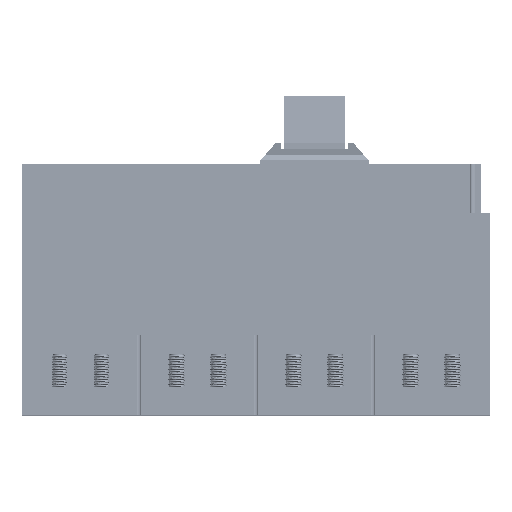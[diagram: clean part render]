
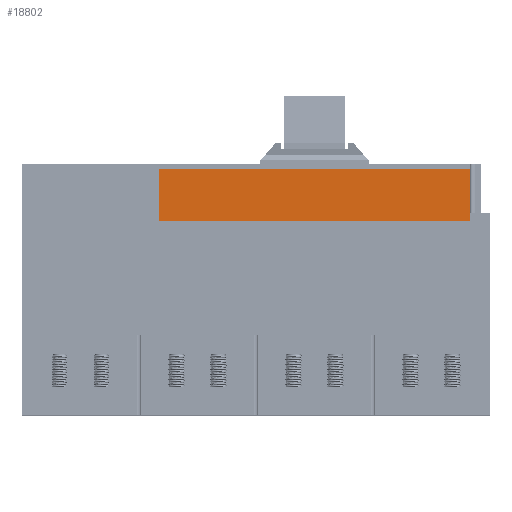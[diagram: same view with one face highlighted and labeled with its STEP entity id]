
A CAD part, top view. The second image highlights one B-rep face of the part: STEP entity #18802.
In plain terms, the highlighted planar face has unit normal (0, 0, 1).
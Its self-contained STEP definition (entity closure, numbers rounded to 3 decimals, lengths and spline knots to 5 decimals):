
#2233=LINE('',#70591,#4064);
#2237=LINE('',#70599,#4068);
#2242=LINE('',#70609,#4073);
#2243=LINE('',#70611,#4074);
#2244=LINE('',#70612,#4075);
#4064=VECTOR('',#23501,0.005);
#4068=VECTOR('',#23509,0.1866);
#4073=VECTOR('',#23518,0.0261);
#4074=VECTOR('',#23519,0.1866);
#4075=VECTOR('',#23520,0.0311);
#5624=FACE_OUTER_BOUND('',#6777,.T.);
#6777=EDGE_LOOP('',(#15578,#15579,#15580,#15581,#15582));
#8658=VERTEX_POINT('',#70586);
#8659=VERTEX_POINT('',#70590);
#8661=VERTEX_POINT('',#70598);
#8664=VERTEX_POINT('',#70608);
#8665=VERTEX_POINT('',#70610);
#11095=EDGE_CURVE('',#8658,#8659,#2233,.T.);
#11099=EDGE_CURVE('',#8661,#8658,#2237,.T.);
#11104=EDGE_CURVE('',#8659,#8664,#2242,.T.);
#11105=EDGE_CURVE('',#8665,#8664,#2243,.T.);
#11106=EDGE_CURVE('',#8665,#8661,#2244,.T.);
#15578=ORIENTED_EDGE('',*,*,#11099,.T.);
#15579=ORIENTED_EDGE('',*,*,#11095,.T.);
#15580=ORIENTED_EDGE('',*,*,#11104,.T.);
#15581=ORIENTED_EDGE('',*,*,#11105,.F.);
#15582=ORIENTED_EDGE('',*,*,#11106,.T.);
#17864=PLANE('',#20056);
#18802=ADVANCED_FACE('',(#5624),#17864,.T.);
#20056=AXIS2_PLACEMENT_3D('',#70607,#23516,#23517);
#23501=DIRECTION('',(0.,1.,0.));
#23509=DIRECTION('',(1.,0.,0.));
#23516=DIRECTION('center_axis',(0.,0.,1.));
#23517=DIRECTION('ref_axis',(1.,0.,0.));
#23518=DIRECTION('',(0.,1.,0.));
#23519=DIRECTION('',(1.,0.,0.));
#23520=DIRECTION('',(0.,-1.,0.));
#70586=CARTESIAN_POINT('',(0.0933,0.,0.111));
#70590=CARTESIAN_POINT('',(0.0933,0.005,0.111));
#70591=CARTESIAN_POINT('',(0.0933,0.,0.111));
#70598=CARTESIAN_POINT('',(-0.0933,0.,0.111));
#70599=CARTESIAN_POINT('',(-0.0933,0.,0.111));
#70607=CARTESIAN_POINT('Origin',(-0.0933,0.,0.111));
#70608=CARTESIAN_POINT('',(0.0933,0.0311,0.111));
#70609=CARTESIAN_POINT('',(0.0933,0.005,0.111));
#70610=CARTESIAN_POINT('',(-0.0933,0.0311,0.111));
#70611=CARTESIAN_POINT('',(-0.0933,0.0311,0.111));
#70612=CARTESIAN_POINT('',(-0.0933,0.0311,0.111));
